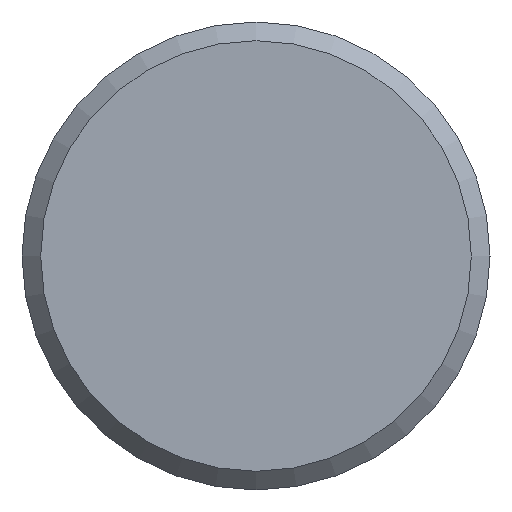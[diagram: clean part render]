
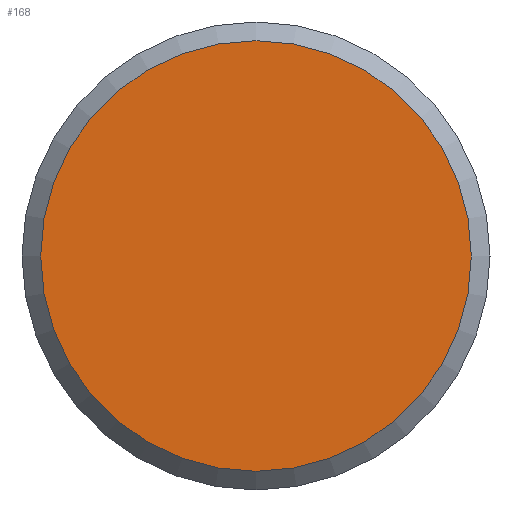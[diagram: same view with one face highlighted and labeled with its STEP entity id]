
A CAD part, left-side view. The second image highlights one B-rep face of the part: STEP entity #168.
In plain terms, the highlighted planar face has unit normal (-1, 0, 0).
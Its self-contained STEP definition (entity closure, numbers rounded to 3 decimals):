
#24=PLANE('',#204);
#31=FACE_OUTER_BOUND('',#44,.T.);
#44=EDGE_LOOP('',(#128));
#76=CIRCLE('',#203,23.);
#90=VERTEX_POINT('',#296);
#105=EDGE_CURVE('',#90,#90,#76,.T.);
#128=ORIENTED_EDGE('',*,*,#105,.F.);
#168=ADVANCED_FACE('',(#31),#24,.T.);
#203=AXIS2_PLACEMENT_3D('',#298,#236,#237);
#204=AXIS2_PLACEMENT_3D('',#299,#238,#239);
#236=DIRECTION('center_axis',(1.,0.,0.));
#237=DIRECTION('ref_axis',(0.,-1.,0.));
#238=DIRECTION('center_axis',(-1.,0.,0.));
#239=DIRECTION('ref_axis',(0.,0.,1.));
#296=CARTESIAN_POINT('',(0.,23.,0.));
#298=CARTESIAN_POINT('Origin',(0.,0.,0.));
#299=CARTESIAN_POINT('Origin',(0.,25.,0.));
